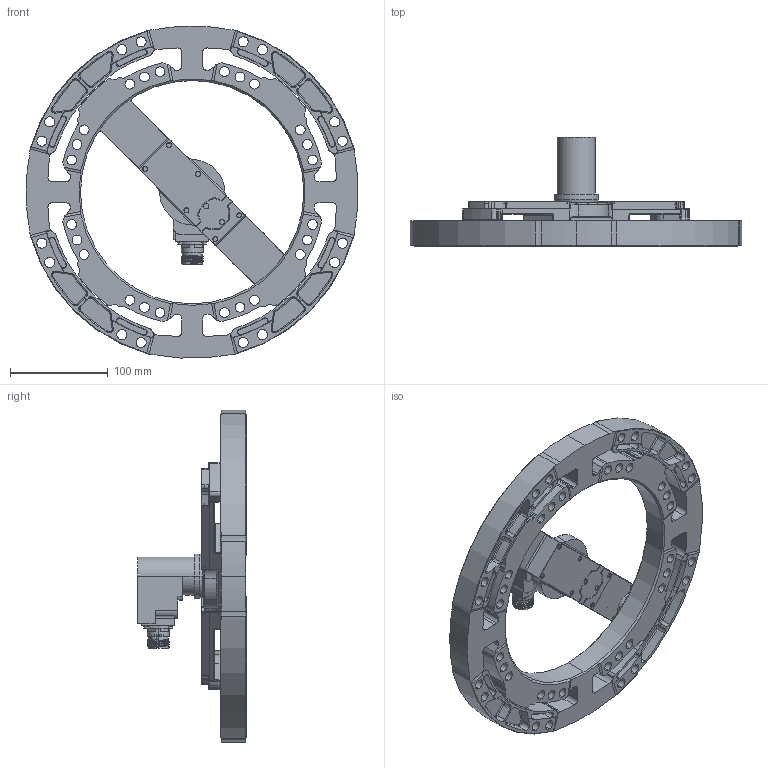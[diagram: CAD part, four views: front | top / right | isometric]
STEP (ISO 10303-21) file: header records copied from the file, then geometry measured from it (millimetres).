
FILE_DESCRIPTION (( 'STEP AP214' ), '1' );
FILE_NAME ('1018257.STEP', '2021-09-28T12:11:38', ( '' ), ( '' ), 'SwSTEP 2.0', 'SolidWorks 2020', '' );
FILE_SCHEMA (( 'AUTOMOTIVE_DESIGN' ));
Length unit declared in the file: inch
Products named in the file (1): 1018257
Bounding box: 339.74 x 111.48 x 339.74 mm (x, y, z)
Volume: 1281605.7 mm3; surface area: 303931 mm2
Topology: 1 solids, 17 shells, 2465 faces, 6474 edges, 4116 vertices
Faces by surface type: plane 1061, cylinder 873, cone 275, torus 238, bspline 18
Entity records: 80037 total; most frequent: CARTESIAN_POINT 19111, ORIENTED_EDGE 12876, DIRECTION 12809, EDGE_CURVE 6438, AXIS2_PLACEMENT_3D 4862, VERTEX_POINT 4116, VECTOR 3085, LINE 3085
